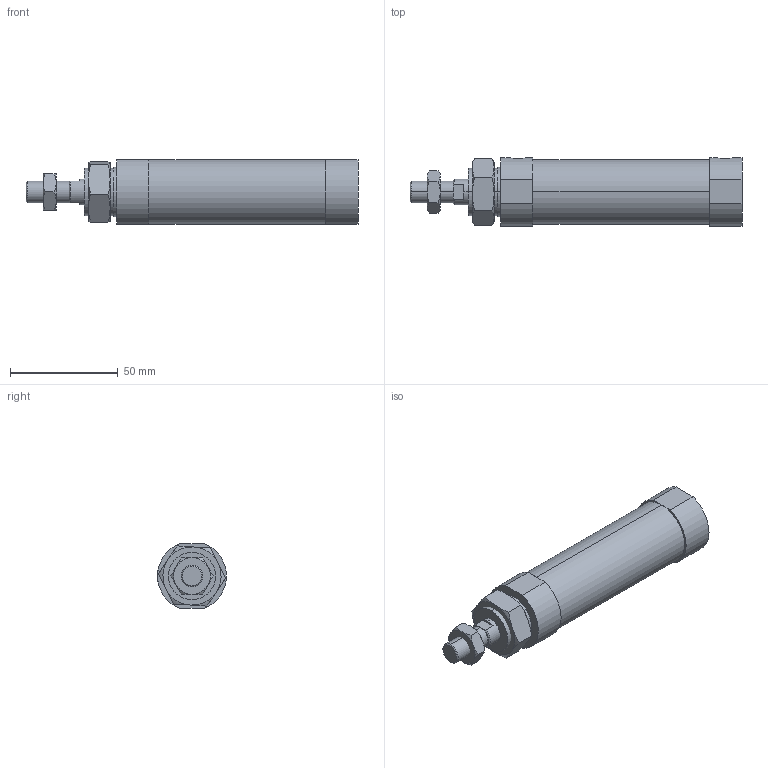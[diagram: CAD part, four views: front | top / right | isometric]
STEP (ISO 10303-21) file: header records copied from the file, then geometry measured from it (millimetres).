
FILE_DESCRIPTION (( 'STEP AP203' ), '1' );
FILE_NAME ('JGND2-25-50-N.STEP', '2016-08-04T02:37:10', ( '' ), ( '' ), 'SwSTEP 2.0', 'SolidWorks 2014', '' );
FILE_SCHEMA (( 'CONFIG_CONTROL_DESIGN' ));
Length unit declared in the file: millimetre
Products named in the file (4): J#2-25-50(P); JGND2-25-50-N
Assembly tree (3 placements, depth 2):
  JGND2-25-50-N
    J#2-25-50(P)
    (unnamed)
    (unnamed)
Bounding box: 154 x 32 x 30 mm (x, y, z)
Volume: 91222.9 mm3; surface area: 18633.9 mm2
Topology: 3 solids, 3 shells, 89 faces, 198 edges, 116 vertices
Faces by surface type: plane 35, torus 24, cylinder 22, cone 8
Entity records: 3150 total; most frequent: CARTESIAN_POINT 845, DIRECTION 400, ORIENTED_EDGE 388, EDGE_CURVE 194, AXIS2_PLACEMENT_3D 167, VERTEX_POINT 116, EDGE_LOOP 98, ADVANCED_FACE 89
